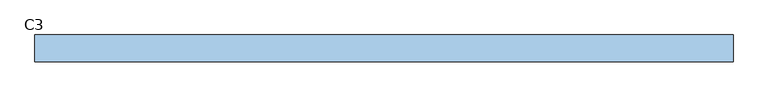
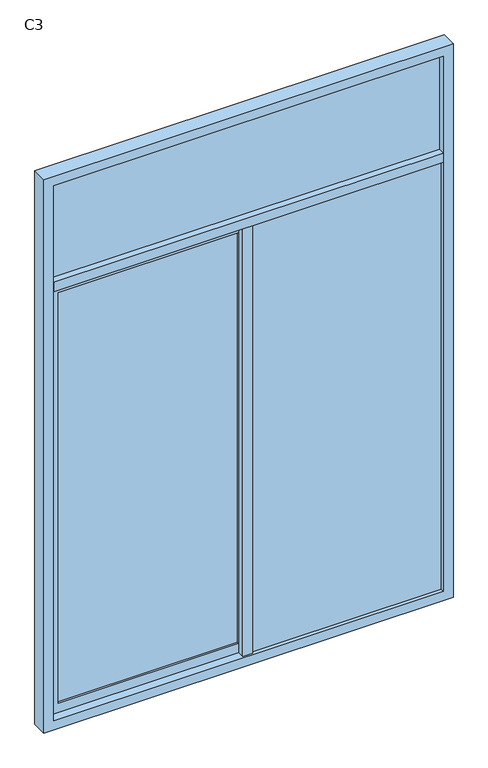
"""IFC4 building model written with IfcOpenShell, lengths in millimetres: window geometry, 组合窗 - 双层单列(固定+推拉) : C3."""

import ifcopenshell
import ifcopenshell.guid

model = None  # the IFC model being written
_history = None  # IfcOwnerHistory: only IFC2X3 demands one
_inside = {}  # id of a spatial element -> (the spatial element, [elements in it])
_under = {}  # id of a project, library or spatial element -> (it, [spatial elements below it])
_declared = {}  # id of a project -> (the project, [libraries it declares])
_typed = {}  # id of a type object -> (the type object, [elements of that type])
_made_of = {}  # id of a material, layer set ... -> (it, [elements and type objects made of it])


def new_model(schema):
    """Start an empty IFC model of exactly this schema.

    Asked for "IFC4X3", IfcOpenShell would pick the latest addendum, in which some entities
    have other attributes; the version numbers below select the first issue.
    IFC2X3 requires an IfcOwnerHistory on every rooted entity: one is made here for all.
    """
    global model, _history
    if schema == "IFC4X3":
        model = ifcopenshell.file(schema_version=(4, 3, 0, 0))
    else:
        model = ifcopenshell.file(schema=schema)
    _inside.clear()
    _under.clear()
    _declared.clear()
    _typed.clear()
    _made_of.clear()
    _history = None
    if model.schema == "IFC2X3":
        org = make("IfcOrganization", Name="unknown")
        user = make(
            "IfcPersonAndOrganization",
            ThePerson=make("IfcPerson", FamilyName="unknown"),
            TheOrganization=org,
        )
        app = make(
            "IfcApplication",
            ApplicationDeveloper=org,
            Version="unknown",
            ApplicationFullName="unknown",
            ApplicationIdentifier="unknown",
        )
        _history = make(
            "IfcOwnerHistory",
            OwningUser=user,
            OwningApplication=app,
            ChangeAction="ADDED",
            CreationDate=0,
        )
    return model


def make(cls, **values):
    """One entity of the class cls with the attributes given. An attribute that is None is left unset."""
    return model.create_entity(
        cls, **{name: value for name, value in values.items() if value is not None}
    )


def rooted(cls, **values):
    """An entity with a GlobalId (a new one), such as an element, a storey or a relation."""
    return make(cls, GlobalId=ifcopenshell.guid.new(), OwnerHistory=_history, **values)


def si_unit(unit_type, name, prefix=None):
    """IfcSIUnit, for example si_unit("LENGTHUNIT", "METRE", prefix="MILLI")."""
    return make("IfcSIUnit", UnitType=unit_type, Prefix=prefix, Name=name)


def assignment(units):
    """IfcUnitAssignment: the units of a project."""
    return None if units is None else make("IfcUnitAssignment", Units=units)


def point(xyz):
    """IfcCartesianPoint."""
    return None if xyz is None else make("IfcCartesianPoint", Coordinates=xyz)


def direction(xyz):
    """IfcDirection."""
    return None if xyz is None else make("IfcDirection", DirectionRatios=xyz)


def frame(location, z_axis=None, x_axis=None):
    """IfcAxis2Placement3D, a coordinate frame: its origin and axes. An axis left out is left unset."""
    return make(
        "IfcAxis2Placement3D",
        Location=point(location),
        Axis=direction(z_axis),
        RefDirection=direction(x_axis),
    )


def origin():
    """The frame at (0, 0, 0) with its axes left unset."""
    return frame((0.0, 0.0, 0.0))


def place(relative_to, where):
    """IfcLocalPlacement: puts the frame where relative to a parent placement (None: the world)."""
    return make(
        "IfcLocalPlacement", PlacementRelTo=relative_to, RelativePlacement=where
    )


def context(
    kind, dimensions, precision=None, world=None, true_north=None, identifier=None
):
    """IfcGeometricRepresentationContext, for example the 3D "Model" context."""
    return make(
        "IfcGeometricRepresentationContext",
        ContextIdentifier=identifier,
        ContextType=kind,
        CoordinateSpaceDimension=dimensions,
        Precision=precision,
        WorldCoordinateSystem=world,
        TrueNorth=true_north,
    )


def project(units=None, contexts=None):
    """IfcProject with its units and contexts."""
    return rooted(
        "IfcProject",
        Name="project",
        RepresentationContexts=contexts,
        UnitsInContext=assignment(units),
    )


def spatial(cls, under=None, at=None, **own):
    """A site, building, storey or space (cls), placed at a placement, below another one or the project."""
    s = rooted(cls, ObjectPlacement=at, **own)
    if under is not None:
        _under.setdefault(under.id(), (under, []))[1].append(s)
    return s


def polyline(points):
    """IfcPolyline through the points."""
    return make("IfcPolyline", Points=[point(p) for p in points])


def outline(outer, holes=None, kind="AREA"):
    """IfcArbitraryClosedProfileDef: a profile drawn as a closed curve; with holes, ...WithVoids."""
    if holes is None:
        return make("IfcArbitraryClosedProfileDef", ProfileType=kind, OuterCurve=outer)
    return make(
        "IfcArbitraryProfileDefWithVoids",
        ProfileType=kind,
        OuterCurve=outer,
        InnerCurves=holes,
    )


def extrude(swept, where, along, depth):
    """IfcExtrudedAreaSolid: the profile swept, set in the frame where, extruded along a direction by depth."""
    return make(
        "IfcExtrudedAreaSolid",
        SweptArea=swept,
        Position=where,
        ExtrudedDirection=direction(along),
        Depth=depth,
    )


def shape(context_of_items, identifier, shape_type, items):
    """IfcShapeRepresentation: the items that make up one representation, for example the "Body"."""
    return make(
        "IfcShapeRepresentation",
        ContextOfItems=context_of_items,
        RepresentationIdentifier=identifier,
        RepresentationType=shape_type,
        Items=items,
    )


def source(mapping_origin, context_of_items, identifier, shape_type, items):
    """IfcRepresentationMap: a shape defined once, which mapped items show again and again."""
    return make(
        "IfcRepresentationMap",
        MappingOrigin=mapping_origin,
        MappedRepresentation=shape(context_of_items, identifier, shape_type, items),
    )


def transform(
    local_origin,
    x_axis=None,
    y_axis=None,
    z_axis=None,
    scale=None,
    scale2=None,
    scale3=None,
    uniform=True,
):
    """IfcCartesianTransformationOperator3D, or its non-uniform kind. x_axis, y_axis, z_axis: its Axis1, 2, 3."""
    if uniform:
        return make(
            "IfcCartesianTransformationOperator3D",
            Axis1=direction(x_axis),
            Axis2=direction(y_axis),
            LocalOrigin=point(local_origin),
            Scale=scale,
            Axis3=direction(z_axis),
        )
    return make(
        "IfcCartesianTransformationOperator3DnonUniform",
        Axis1=direction(x_axis),
        Axis2=direction(y_axis),
        LocalOrigin=point(local_origin),
        Scale=scale,
        Axis3=direction(z_axis),
        Scale2=scale2,
        Scale3=scale3,
    )


def mapped(mapping_source, mapping_target):
    """IfcMappedItem: shows the shape of a source again, moved by a transform."""
    return make(
        "IfcMappedItem", MappingSource=mapping_source, MappingTarget=mapping_target
    )


def made_of(thing, what):
    """Note that an element or type object is made of a material, layer set ...; save() writes the relation."""
    if what is not None:
        _made_of.setdefault(what.id(), (what, []))[1].append(thing)
    return thing


def element(
    cls,
    number,
    at=None,
    inside=None,
    cuts=None,
    type_object=None,
    material=None,
    context=None,
    identifier="Body",
    shape_type=None,
    held_by="IfcProductDefinitionShape",
    body=None,
    shapes=None,
    **own,
):
    """One element of the class cls, such as IfcWall. Its Tag is "e" and its number.

    at: its placement. inside: the storey or other place that contains it. cuts: it is an
    opening in that element (IfcRelVoidsElement). A single representation is given by context,
    identifier, shape_type and body (its items); several are given by shapes. held_by: the class
    of the entity that holds the representations. save() writes the other relations.
    """
    e = rooted(cls, Tag="e%d" % number, ObjectPlacement=at, **own)
    if body is not None:
        shapes = [shape(context, identifier, shape_type, body)]
    if shapes is not None:
        e.Representation = make(held_by, Representations=shapes)
    if inside is not None:
        _inside.setdefault(inside.id(), (inside, []))[1].append(e)
    if cuts is not None:
        rooted(
            "IfcRelVoidsElement", RelatingBuildingElement=cuts, RelatedOpeningElement=e
        )
    if type_object is not None:
        _typed.setdefault(type_object.id(), (type_object, []))[1].append(e)
    return made_of(e, material)


def aggregate(whole, parts):
    """IfcRelAggregates: a whole, such as a stair, and the parts it consists of."""
    return rooted("IfcRelAggregates", RelatingObject=whole, RelatedObjects=parts)


def save(model, path):
    """Write the relations noted so far, then the file.

    IfcRelAggregates (storeys below a building ...), IfcRelContainedInSpatialStructure (elements
    in a storey), IfcRelDefinesByType, IfcRelAssociatesMaterial and IfcRelDeclares: one each for
    every whole, place, type object, material and project.
    """
    for whole, parts in _under.values():
        aggregate(whole, parts)
    for where, things in _inside.values():
        rooted(
            "IfcRelContainedInSpatialStructure",
            RelatedElements=things,
            RelatingStructure=where,
        )
    for kind, things in _typed.values():
        rooted("IfcRelDefinesByType", RelatedObjects=things, RelatingType=kind)
    for what, things in _made_of.values():
        rooted("IfcRelAssociatesMaterial", RelatedObjects=things, RelatingMaterial=what)
    for by, libraries in _declared.values():
        rooted("IfcRelDeclares", RelatingContext=by, RelatedDefinitions=libraries)
    model.write(path)


def c3_66c74352(model_context):
    return source(origin(), model_context, "Body", "SweptSolid", [
        extrude(outline(polyline([(1000.0, 50.0), (1000.0, 40.0), (-1000.0, 40.0), (-1000.0, 50.0), (1000.0, 50.0)])), frame((0.0, 0.0, 3325.0), z_axis=(0.0, 0.0, 1.0), x_axis=(1.0, 0.0, 0.0)), (0.0, 0.0, 1.0), 525.0),
        extrude(outline(polyline([(25.0, 25.0), (25.0, 35.0), (1000.0, 35.0), (1000.0, 25.0), (25.0, 25.0)])), frame((0.0, 0.0, 950.0), z_axis=(0.0, 0.0, 1.0), x_axis=(1.0, 0.0, 0.0)), (0.0, 0.0, 1.0), 2325.0),
        extrude(outline(polyline([(25.0, 15.0), (-25.0, 15.0), (-25.0, 45.0), (25.0, 45.0), (25.0, 15.0)])), frame((0.0, 0.0, 950.0), z_axis=(0.0, 0.0, 1.0), x_axis=(1.0, 0.0, 0.0)), (0.0, 0.0, 1.0), 2325.0),
        extrude(outline(polyline([(950.0, 25.0), (3275.0, 25.0), (3275.0, -1000.0), (950.0, -1000.0), (950.0, 25.0)]), holes=[polyline([(3225.0, -25.0), (1000.0, -25.0), (1000.0, -950.0), (3225.0, -950.0), (3225.0, -25.0)])]), frame((0.0, 50.0, 0.0), z_axis=(0.0, 1.0, 0.0), x_axis=(0.0, 0.0, 1.0)), (0.0, 0.0, 1.0), 30.0),
        extrude(outline(polyline([(-950.0, 60.0), (-950.0, 70.0), (-25.0, 70.0), (-25.0, 60.0), (-950.0, 60.0)])), frame((0.0, 0.0, 1000.0), z_axis=(0.0, 0.0, 1.0), x_axis=(1.0, 0.0, 0.0)), (0.0, 0.0, 1.0), 2225.0),
        extrude(outline(polyline([(-1000.0, 5.0), (-1000.0, 85.0), (1000.0, 85.0), (1000.0, 5.0), (-1000.0, 5.0)])), frame((0.0, 0.0, 3275.0), z_axis=(0.0, 0.0, 1.0), x_axis=(1.0, 0.0, 0.0)), (0.0, 0.0, 1.0), 50.0),
        extrude(outline(polyline([(3900.0, 1050.0), (3900.0, -1050.0), (900.0, -1050.0), (900.0, 1050.0), (3900.0, 1050.0)]), holes=[polyline([(3850.0, -1000.0), (3850.0, 1000.0), (950.0, 1000.0), (950.0, -1000.0), (3850.0, -1000.0)])]), frame((0.0, 5.0, 0.0), z_axis=(0.0, 1.0, 0.0), x_axis=(0.0, 0.0, 1.0)), (0.0, 0.0, 1.0), 80.0),
    ])


if __name__ == "__main__":
    model = new_model("IFC4")
    model_context = context("Model", 3, world=origin())
    ifc_project = project(units=[si_unit("LENGTHUNIT", "METRE", prefix="MILLI")], contexts=[model_context])
    site = spatial("IfcSite", under=ifc_project)
    building = spatial("IfcBuilding", under=site)
    placement = place(None, origin())
    c3_shape = c3_66c74352(model_context)
    element("IfcWindow", 1, ObjectType="组合窗 - 双层单列(固定+推拉) : C3", at=placement, inside=building, context=model_context, shape_type="MappedRepresentation", body=[
        mapped(c3_shape, transform((0.0, 0.0, 0.0), x_axis=(1.0, 0.0, 0.0), y_axis=(0.0, 1.0, 0.0), z_axis=(0.0, 0.0, 1.0))),
    ])
    save(model, "model.ifc")
